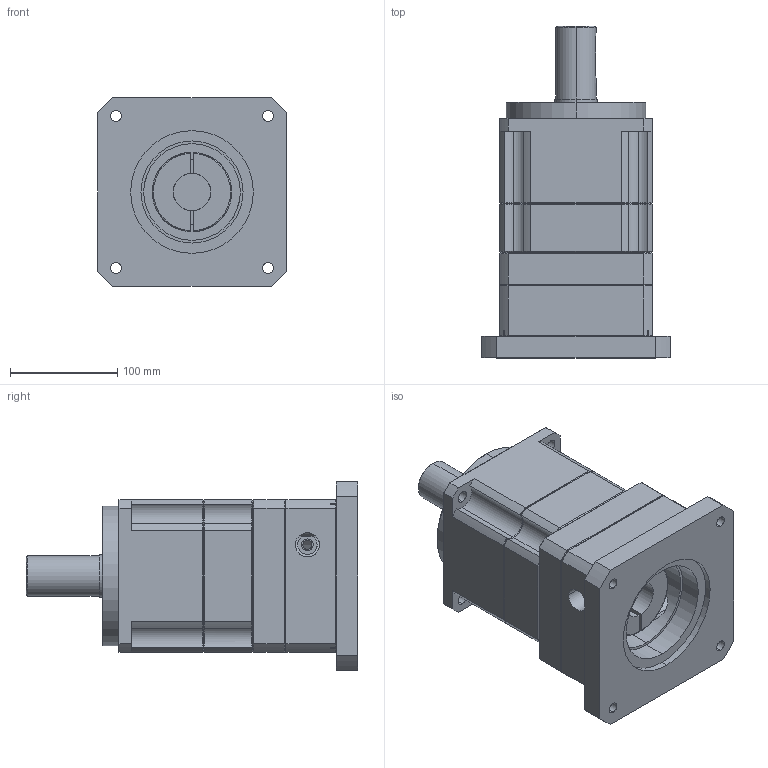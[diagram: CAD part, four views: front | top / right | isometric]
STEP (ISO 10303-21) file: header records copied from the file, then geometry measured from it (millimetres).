
FILE_DESCRIPTION (( 'STEP AP203' ), '1' );
FILE_NAME ('MF150H-L2｣r114.3PCD｣r200M8 - ｽﾆｻs.STEP', '2014-09-09T03:09:02', ( 'KELLY' ), ( '' ), 'SwSTEP 2.0', 'SolidWorks 2012', '' );
FILE_SCHEMA (( 'CONFIG_CONTROL_DESIGN' ));
Length unit declared in the file: millimetre
Products named in the file (1): MF150H-L2£r114.3PCD£r200M8 - ½Æ»s
Bounding box: 176 x 309 x 176 mm (x, y, z)
Volume: 4185195.4 mm3; surface area: 335133.6 mm2
Topology: 3 solids, 7 shells, 297 faces, 709 edges, 429 vertices
Faces by surface type: cylinder 117, plane 94, cone 80, torus 6
Entity records: 9323 total; most frequent: CARTESIAN_POINT 2385, DIRECTION 1473, ORIENTED_EDGE 1398, EDGE_CURVE 699, AXIS2_PLACEMENT_3D 596, VERTEX_POINT 429, EDGE_LOOP 338, CIRCLE 298
